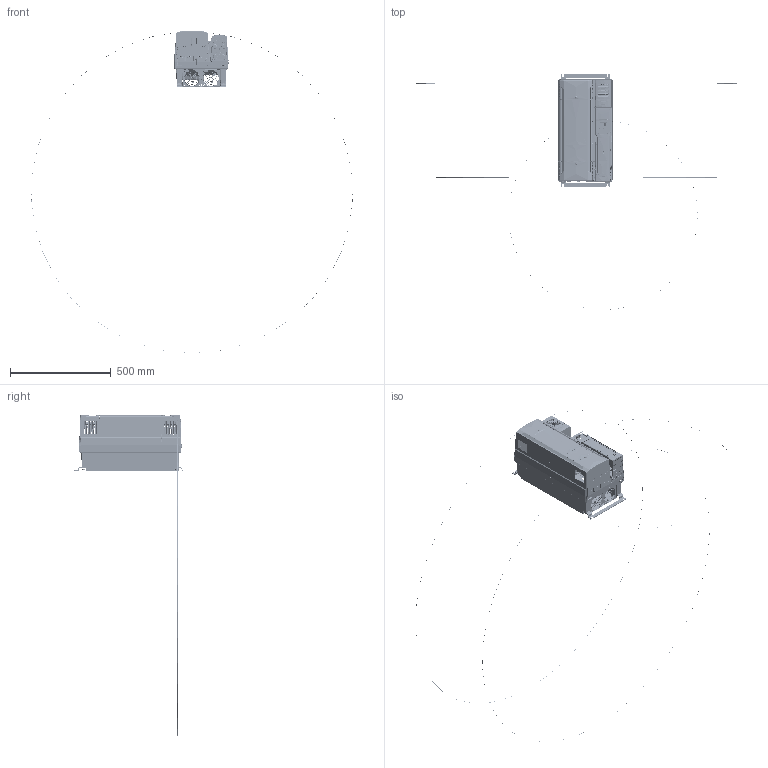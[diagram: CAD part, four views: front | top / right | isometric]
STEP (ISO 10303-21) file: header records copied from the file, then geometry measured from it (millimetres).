
FILE_DESCRIPTION((''),'2;1');
FILE_NAME('M400-SIMPLE_SW0002','2014-02-21T',('owenrh01'),(''),'PRO/ENGINEER BY PARAMETRIC TECHNOLOGY CORPORATION, 2011490','PRO/ENGINEER BY PARAMETRIC TECHNOLOGY CORPORATION, 2011490','');
FILE_SCHEMA(('CONFIG_CONTROL_DESIGN'));
Products named in the file (1): M400-SIMPLE_SW0002
Bounding box: 1593.08 x 1168.37 x 1597.44 mm (x, y, z)
Surface area: 1774179.9 mm2 (no closed solid volume)
Topology: 0 solids, 0 shells, 4462 faces, 40912 edges, 40756 vertices
Faces by surface type: bspline 4278, torus 167, sphere 17
Entity records: 661411 total; most frequent: CARTESIAN_POINT 284798, DIRECTION 57639, TRIMMED_CURVE 52985, VECTOR 48699, LINE 48699, DEFINITIONAL_REPRESENTATION 40589, PCURVE 40589, COMPOSITE_CURVE_SEGMENT 40589
